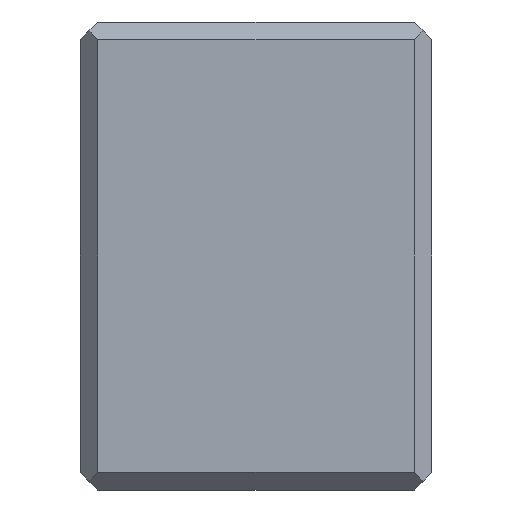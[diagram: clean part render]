
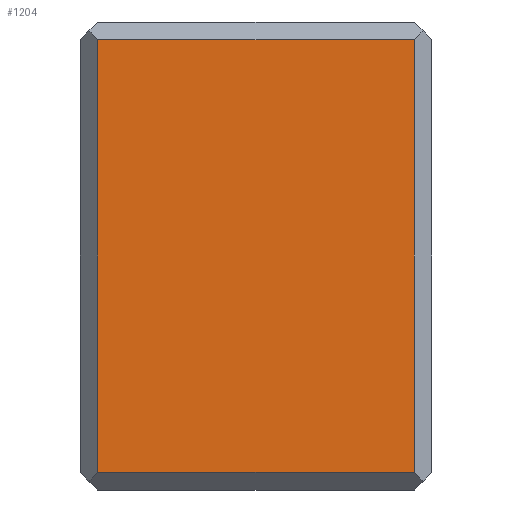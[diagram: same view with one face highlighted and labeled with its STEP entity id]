
A CAD part, front view. The second image highlights one B-rep face of the part: STEP entity #1204.
In plain terms, the highlighted planar face has unit normal (0, -1, 0).
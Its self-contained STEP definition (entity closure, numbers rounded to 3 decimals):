
#953=CARTESIAN_POINT('Vertex',(4.5,28.,-7.2)) ;
#959=CARTESIAN_POINT('Vertex',(-4.5,28.,-7.2)) ;
#962=CARTESIAN_POINT('Line Origine',(0.,28.,-7.2)) ;
#1164=CARTESIAN_POINT('Vertex',(-4.5,28.,-19.5)) ;
#1167=CARTESIAN_POINT('Line Origine',(-4.5,28.,-13.35)) ;
#1181=CARTESIAN_POINT('Axis2P3D Location',(0.,28.,-20.)) ;
#1186=CARTESIAN_POINT('Line Origine',(0.,28.,-19.5)) ;
#1190=CARTESIAN_POINT('Vertex',(4.5,28.,-19.5)) ;
#1193=CARTESIAN_POINT('Line Origine',(4.5,28.,-13.35)) ;
#963=DIRECTION('Vector Direction',(1.,0.,0.)) ;
#1168=DIRECTION('Vector Direction',(0.,0.,1.)) ;
#1182=DIRECTION('Axis2P3D Direction',(0.,1.,0.)) ;
#1183=DIRECTION('Axis2P3D XDirection',(0.,0.,1.)) ;
#1187=DIRECTION('Vector Direction',(-1.,0.,0.)) ;
#1194=DIRECTION('Vector Direction',(0.,0.,1.)) ;
#1184=AXIS2_PLACEMENT_3D('Plane Axis2P3D',#1181,#1182,#1183) ;
#1199=ORIENTED_EDGE('',*,*,#1192,.T.) ;
#1200=ORIENTED_EDGE('',*,*,#1197,.F.) ;
#1201=ORIENTED_EDGE('',*,*,#966,.F.) ;
#1202=ORIENTED_EDGE('',*,*,#1171,.T.) ;
#964=VECTOR('Line Direction',#963,1.) ;
#1169=VECTOR('Line Direction',#1168,1.) ;
#1188=VECTOR('Line Direction',#1187,1.) ;
#1195=VECTOR('Line Direction',#1194,1.) ;
#1204=ADVANCED_FACE('PartBody',(#1203),#1185,.F.) ;
#966=EDGE_CURVE('',#960,#954,#965,.T.) ;
#1171=EDGE_CURVE('',#960,#1165,#1170,.F.) ;
#1192=EDGE_CURVE('',#1165,#1191,#1189,.F.) ;
#1197=EDGE_CURVE('',#954,#1191,#1196,.F.) ;
#1198=EDGE_LOOP('',(#1199,#1200,#1201,#1202)) ;
#1203=FACE_OUTER_BOUND('',#1198,.T.) ;
#965=LINE('Line',#962,#964) ;
#1170=LINE('Line',#1167,#1169) ;
#1189=LINE('Line',#1186,#1188) ;
#1196=LINE('Line',#1193,#1195) ;
#1185=PLANE('Plane',#1184) ;
#954=VERTEX_POINT('',#953) ;
#960=VERTEX_POINT('',#959) ;
#1165=VERTEX_POINT('',#1164) ;
#1191=VERTEX_POINT('',#1190) ;
